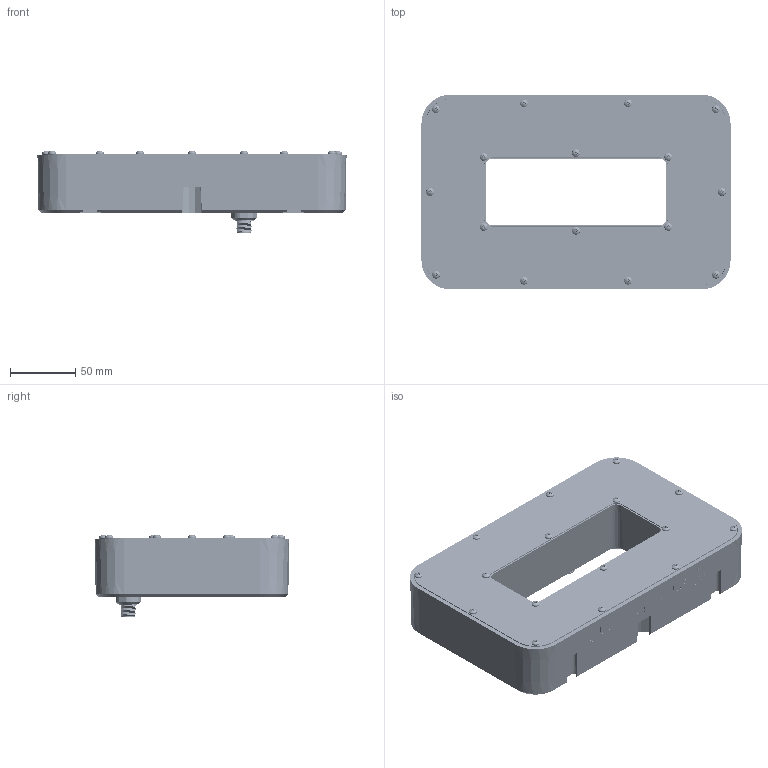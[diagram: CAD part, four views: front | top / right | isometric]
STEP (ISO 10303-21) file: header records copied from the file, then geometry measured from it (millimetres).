
FILE_DESCRIPTION (( 'STEP AP214' ), '1' );
FILE_NAME ('JWL225-MD.STEP', '2024-05-22T19:22:34', ( '' ), ( '' ), 'SwSTEP 2.0', 'SolidWorks 2024', '' );
FILE_SCHEMA (( 'AUTOMOTIVE_DESIGN' ));
Length unit declared in the file: millimetre
Products named in the file (14): JWL225_Cast LENS COVER_JWL225 Cast_LENS COVER; M12 CONNECTOR_Male; JWL-225 Cast_ID GASKET_JWL225 Cast_ID GASKET; JWL225_LED BOARD ASSEM; JWL225 LED BOARD_A1000_G2_LED BOARD; M12_NUT_M12_NUT; JWL225_Cast POLARIZER_JWL225 Cast_LENS COVER; JWL225_DRIVER BOARD_A1000_G2_Driver Board_Jon; JWL225-MD; M3 X 8mm PHP BLACK OXIDE_(M3 X 8mm BLACK OXIDE) 95836A207_Black-Oxide 18-8 Stainless Steel Pan Head Phillips Screws; JWL225_DRIVER BOARD ASSEM; JWL225_Cast OD GASKET_JWL225 Cast_OD GASKET; JWL225_CAST HOUSING; TINA2-SERIES_TINA2-SERIES
Assembly tree (67 placements, depth 3):
  JWL225-MD
    JWL225_CAST HOUSING
    JWL225_DRIVER BOARD ASSEM
      JWL225_DRIVER BOARD_A1000_G2_Driver Board_Jon
      M12 CONNECTOR_Male
    JWL225_LED BOARD ASSEM
      JWL225 LED BOARD_A1000_G2_LED BOARD
      TINA2-SERIES_TINA2-SERIES  x32
    JWL225_Cast OD GASKET_JWL225 Cast_OD GASKET
    JWL-225 Cast_ID GASKET_JWL225 Cast_ID GASKET
    JWL225_Cast POLARIZER_JWL225 Cast_LENS COVER
    JWL225_Cast LENS COVER_JWL225 Cast_LENS COVER
    M3 X 8mm PHP BLACK OXIDE_(M3 X 8mm BLACK OXIDE) 95836A207_Black-Oxide 18-8 Stainless Steel Pan Head Phillips Screws  x24
    M12_NUT_M12_NUT
Bounding box: 237.6 x 149.6 x 63.18 mm (x, y, z)
Volume: 708507.3 mm3; surface area: 410769.4 mm2
Topology: 129 solids, 130 shells, 12905 faces, 35271 edges, 22664 vertices
Faces by surface type: cylinder 4100, plane 3506, bspline 3174, cone 1929, torus 148, sphere 48
Entity records: 117472 total; most frequent: CARTESIAN_POINT 54766, ORIENTED_EDGE 11272, DIRECTION 8854, EDGE_CURVE 5636, VERTEX_POINT 3664, AXIS2_PLACEMENT_3D 3089, VECTOR 2676, LINE 2676
